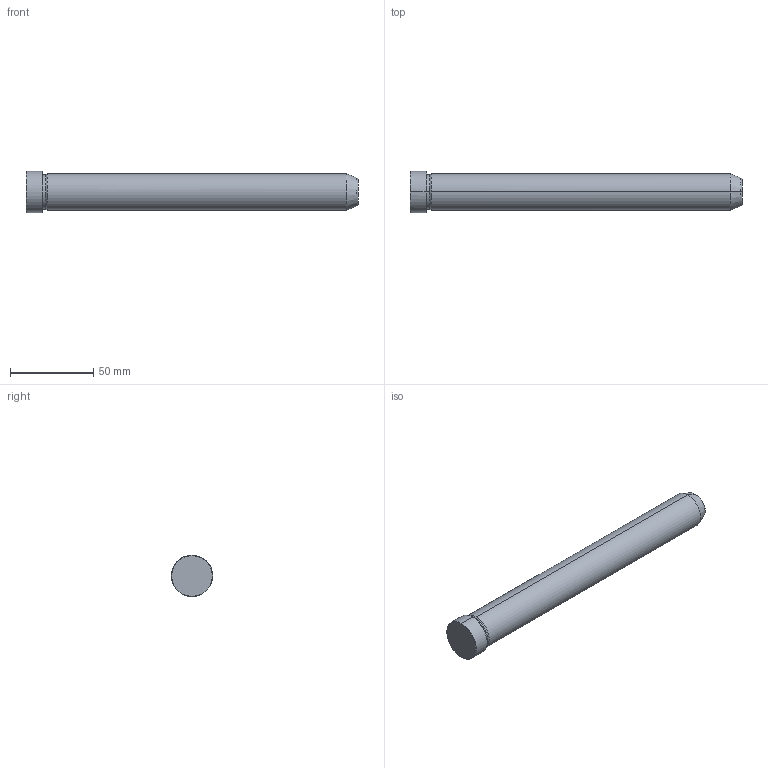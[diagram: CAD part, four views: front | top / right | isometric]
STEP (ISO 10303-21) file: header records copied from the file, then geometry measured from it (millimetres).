
FILE_DESCRIPTION(('CATIA V5 STEP Exchange'),'2;1');
FILE_NAME('C:\Users\Utente\Desktop\IO LAVORO\3D X SITO CF\X SITO\PLASTICA\549\549-22X200.stp','2021-12-13T12:56:31+00:00',('none'),('none'),'CATIA Version 5 Release 20 GA (IN-10)','CATIA V5 STEP AP203','none');
FILE_SCHEMA(('CONFIG_CONTROL_DESIGN'));
Length unit declared in the file: millimetre
Products named in the file (1): 549-22X200
Bounding box: 200 x 25 x 25 mm (x, y, z)
Volume: 76415 mm3; surface area: 14698.4 mm2
Topology: 1 solids, 1 shells, 19 faces, 56 edges, 40 vertices
Faces by surface type: cone 8, cylinder 6, plane 3, torus 2
Entity records: 736 total; most frequent: CARTESIAN_POINT 192, ORIENTED_EDGE 112, DIRECTION 86, EDGE_CURVE 56, AXIS2_PLACEMENT_3D 54, VERTEX_POINT 40, CIRCLE 34, EDGE_LOOP 20
